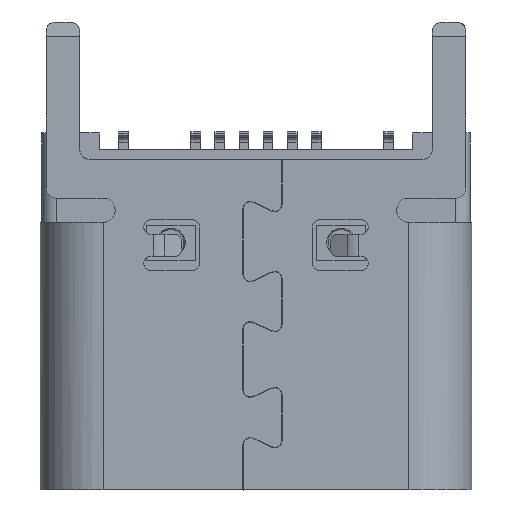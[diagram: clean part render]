
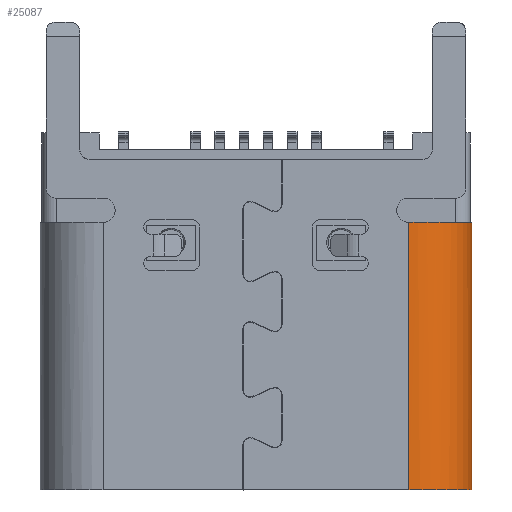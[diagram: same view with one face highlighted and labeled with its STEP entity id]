
A CAD part, front view. The second image highlights one B-rep face of the part: STEP entity #25087.
In plain terms, the highlighted cylindrical face has radius 1.3 mm (diameter 2.6 mm), a partial arc.
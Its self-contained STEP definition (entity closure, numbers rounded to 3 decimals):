
#663 = EDGE_CURVE ( 'NONE', #17895, #18882, #21457, .T. ) ;
#665 = LINE ( 'NONE', #22730, #7618 ) ;
#1171 = DIRECTION ( 'NONE',  ( 0., 0., -1. ) ) ;
#1817 = VERTEX_POINT ( 'NONE', #2993 ) ;
#2080 = CIRCLE ( 'NONE', #5803, 1.3 ) ;
#2607 = DIRECTION ( 'NONE',  ( 1., 0., 0. ) ) ;
#2993 = CARTESIAN_POINT ( 'NONE',  ( 3.003, -0.914, 5.669 ) ) ;
#3815 = DIRECTION ( 'NONE',  ( 0., 0., -1. ) ) ;
#5151 = ORIENTED_EDGE ( 'NONE', *, *, #26026, .F. ) ;
#5803 = AXIS2_PLACEMENT_3D ( 'NONE', #18457, #11515, #25301 ) ;
#6836 = FACE_OUTER_BOUND ( 'NONE', #19648, .T. ) ;
#7215 = DIRECTION ( 'NONE',  ( 0., 0., 1. ) ) ;
#7618 = VECTOR ( 'NONE', #7215, 1000. ) ;
#7896 = DIRECTION ( 'NONE',  ( 1., 0., 0. ) ) ;
#9021 = CYLINDRICAL_SURFACE ( 'NONE', #20611, 1.3 ) ;
#9499 = ORIENTED_EDGE ( 'NONE', *, *, #20459, .F. ) ;
#9760 = LINE ( 'NONE', #18609, #17411 ) ;
#10098 = ORIENTED_EDGE ( 'NONE', *, *, #25964, .T. ) ;
#10786 = ORIENTED_EDGE ( 'NONE', *, *, #19659, .T. ) ;
#11055 = ORIENTED_EDGE ( 'NONE', *, *, #15198, .T. ) ;
#11515 = DIRECTION ( 'NONE',  ( 0., 0., -1. ) ) ;
#12329 = VERTEX_POINT ( 'NONE', #15690 ) ;
#14759 = ORIENTED_EDGE ( 'NONE', *, *, #663, .T. ) ;
#14863 = CARTESIAN_POINT ( 'NONE',  ( 3.003, 0.386, 5.669 ) ) ;
#15198 = EDGE_CURVE ( 'NONE', #12329, #22630, #18106, .T. ) ;
#15653 = CARTESIAN_POINT ( 'NONE',  ( 3.003, 0.386, 0.119 ) ) ;
#15690 = CARTESIAN_POINT ( 'NONE',  ( 4.273, 0.109, 5.669 ) ) ;
#17160 = AXIS2_PLACEMENT_3D ( 'NONE', #14863, #3815, #7896 ) ;
#17177 = AXIS2_PLACEMENT_3D ( 'NONE', #20630, #1171, #21045 ) ;
#17397 = DIRECTION ( 'NONE',  ( 0., 0., 1. ) ) ;
#17411 = VECTOR ( 'NONE', #25584, 1000. ) ;
#17895 = VERTEX_POINT ( 'NONE', #20122 ) ;
#17994 = DIRECTION ( 'NONE',  ( 0., 0., 1. ) ) ;
#18106 = CIRCLE ( 'NONE', #17177, 1.3 ) ;
#18457 = CARTESIAN_POINT ( 'NONE',  ( 3.003, 0.386, 5.669 ) ) ;
#18609 = CARTESIAN_POINT ( 'NONE',  ( 4.303, 0.386, 5.669 ) ) ;
#18882 = VERTEX_POINT ( 'NONE', #21445 ) ;
#19648 = EDGE_LOOP ( 'NONE', ( #10098, #9499, #14759, #5151, #10786, #11055 ) ) ;
#19659 = EDGE_CURVE ( 'NONE', #28129, #12329, #27812, .T. ) ;
#20122 = CARTESIAN_POINT ( 'NONE',  ( 3.003, -0.914, 0.119 ) ) ;
#20459 = EDGE_CURVE ( 'NONE', #17895, #1817, #665, .T. ) ;
#20611 = AXIS2_PLACEMENT_3D ( 'NONE', #24968, #17994, #2607 ) ;
#20630 = CARTESIAN_POINT ( 'NONE',  ( 3.003, 0.386, 5.669 ) ) ;
#21045 = DIRECTION ( 'NONE',  ( 0.977, -0.214, 0. ) ) ;
#21445 = CARTESIAN_POINT ( 'NONE',  ( 4.303, 0.386, 0.119 ) ) ;
#21457 = CIRCLE ( 'NONE', #25644, 1.3 ) ;
#22630 = VERTEX_POINT ( 'NONE', #23490 ) ;
#22730 = CARTESIAN_POINT ( 'NONE',  ( 3.003, -0.914, 0.119 ) ) ;
#23490 = CARTESIAN_POINT ( 'NONE',  ( 3.868, -0.584, 5.669 ) ) ;
#24074 = DIRECTION ( 'NONE',  ( 0., -1., 0. ) ) ;
#24968 = CARTESIAN_POINT ( 'NONE',  ( 3.003, 0.386, 6.171 ) ) ;
#25087 = ADVANCED_FACE ( 'NONE', ( #6836 ), #9021, .T. ) ;
#25301 = DIRECTION ( 'NONE',  ( 0.666, -0.746, 0. ) ) ;
#25584 = DIRECTION ( 'NONE',  ( 0., 0., -1. ) ) ;
#25644 = AXIS2_PLACEMENT_3D ( 'NONE', #15653, #17397, #24074 ) ;
#25964 = EDGE_CURVE ( 'NONE', #22630, #1817, #2080, .T. ) ;
#26026 = EDGE_CURVE ( 'NONE', #28129, #18882, #9760, .T. ) ;
#27812 = CIRCLE ( 'NONE', #17160, 1.3 ) ;
#28129 = VERTEX_POINT ( 'NONE', #28565 ) ;
#28565 = CARTESIAN_POINT ( 'NONE',  ( 4.303, 0.386, 5.669 ) ) ;
